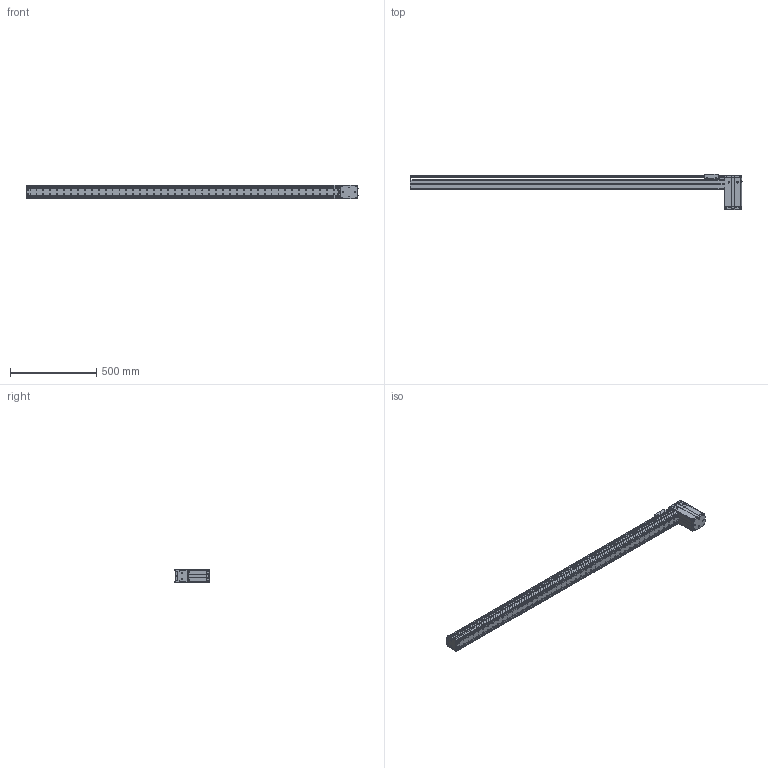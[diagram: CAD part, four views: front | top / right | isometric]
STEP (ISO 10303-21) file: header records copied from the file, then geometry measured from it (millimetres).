
FILE_DESCRIPTION((''),'2;1');
FILE_NAME('BE10_-BU-S_N-G5_IGS_PRT','2017-06-18T',(' '),(''),'PRO/ENGINEER BY PARAMETRIC TECHNOLOGY CORPORATION, 2015030','PRO/ENGINEER BY PARAMETRIC TECHNOLOGY CORPORATION, 2015030','');
FILE_SCHEMA(('CONFIG_CONTROL_DESIGN'));
Products named in the file (1): BE10_-BU-S_N-G5_IGS_PRT
Bounding box: 1920.8 x 202.72 x 78 mm (x, y, z)
Volume: 2590682.9 mm3; surface area: 1763560.8 mm2
Topology: 2 solids, 177 shells, 2288 faces, 6279 edges, 4171 vertices
Faces by surface type: plane 1078, cylinder 1051, cone 103, sphere 28, torus 25, bspline 3
Entity records: 75119 total; most frequent: CARTESIAN_POINT 15518, DIRECTION 12677, ORIENTED_EDGE 11830, EDGE_CURVE 6225, AXIS2_PLACEMENT_3D 4615, VERTEX_POINT 4171, VECTOR 3447, LINE 3447
